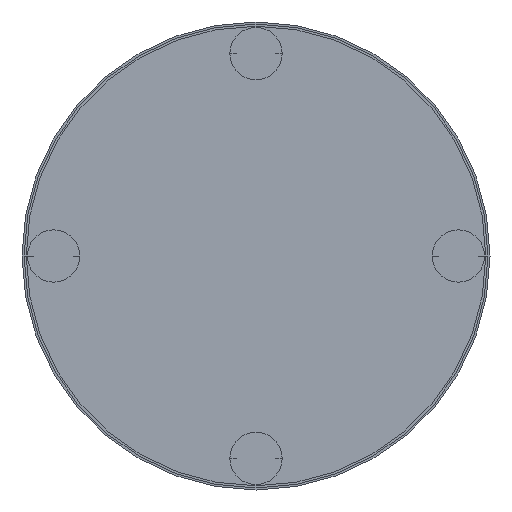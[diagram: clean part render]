
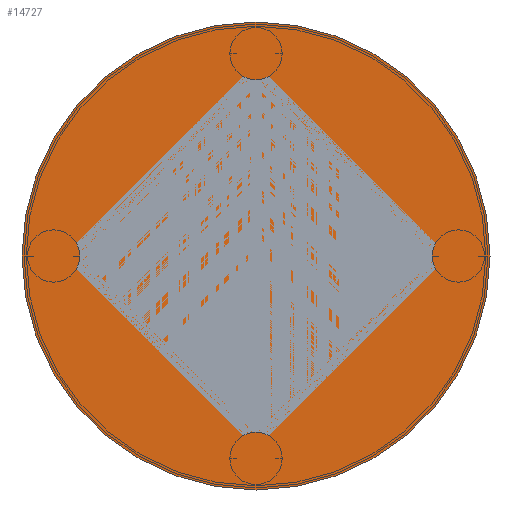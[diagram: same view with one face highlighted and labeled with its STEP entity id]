
A CAD part, front view. The second image highlights one B-rep face of the part: STEP entity #14727.
In plain terms, the highlighted planar face has unit normal (0, -1, 0) as drawn and (0, 1, 0) by its records, which use the part's own axes.
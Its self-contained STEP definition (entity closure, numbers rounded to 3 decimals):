
#14157=CARTESIAN_POINT('',(0.,10.,0.));
#14158=DIRECTION('',(0.,1.,0.));
#14159=DIRECTION('',(-1.,0.,0.));
#14160=AXIS2_PLACEMENT_3D('',#14157,#14158,#14159);
#14172=CARTESIAN_POINT('',(0.,10.,0.));
#14173=DIRECTION('',(0.,-1.,0.));
#14174=DIRECTION('',(-1.,0.,0.));
#14175=AXIS2_PLACEMENT_3D('',#14172,#14173,#14174);
#14350=CARTESIAN_POINT('',(-55.5,10.,0.));
#14352=VERTEX_POINT('',#14350);
#14370=CARTESIAN_POINT('',(55.5,10.,0.));
#14372=VERTEX_POINT('',#14370);
#14718=CARTESIAN_POINT('',(0.,10.,0.));
#14719=DIRECTION('',(0.,-1.,0.));
#14720=DIRECTION('',(-1.,0.,0.));
#14721=AXIS2_PLACEMENT_3D('',#14718,#14719,#14720);
#14722=PLANE('',#14721);
#14723=ORIENTED_EDGE('',*,*,#14697,.F.);
#14724=ORIENTED_EDGE('',*,*,#14713,.T.);
#14725=EDGE_LOOP('',(#14723,#14724));
#14726=FACE_OUTER_BOUND('',#14725,.F.);
#14727=ADVANCED_FACE('',(#14726),#14722,.F.);
#14161=CIRCLE('',#14160,55.5);
#14176=CIRCLE('',#14175,55.5);
#14697=EDGE_CURVE('',#14352,#14372,#14161,.T.);
#14713=EDGE_CURVE('',#14352,#14372,#14176,.T.);
